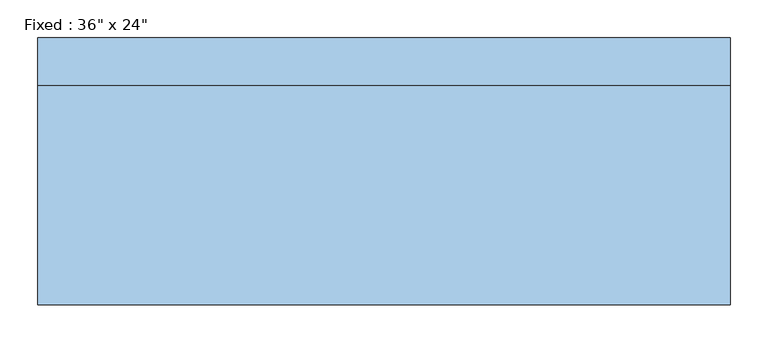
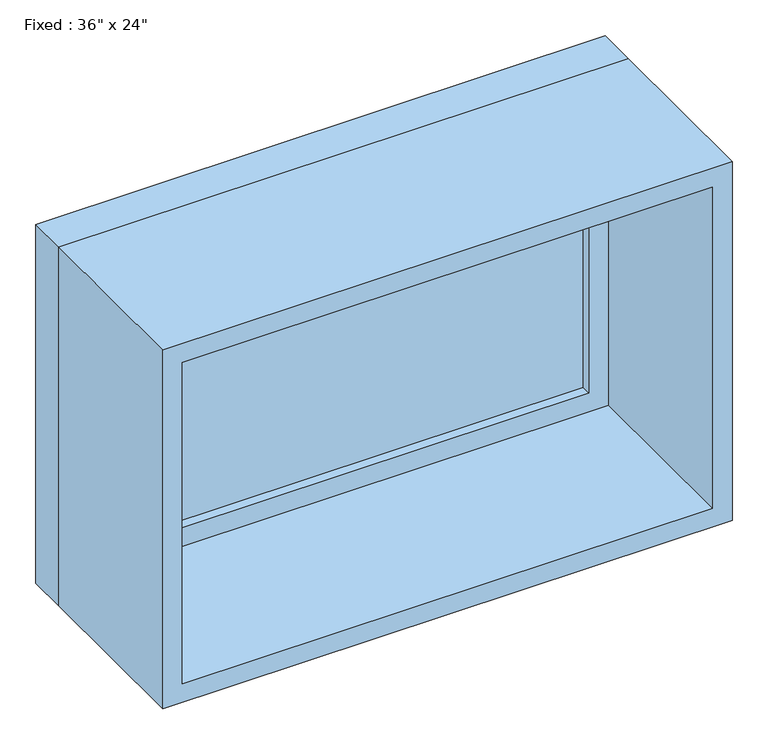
"""IFC4 building model written with IfcOpenShell, lengths in millimetres: window geometry."""

import ifcopenshell
import ifcopenshell.guid

model = None  # the IFC model being written
_history = None  # IfcOwnerHistory: only IFC2X3 demands one
_inside = {}  # id of a spatial element -> (the spatial element, [elements in it])
_under = {}  # id of a project, library or spatial element -> (it, [spatial elements below it])
_declared = {}  # id of a project -> (the project, [libraries it declares])
_typed = {}  # id of a type object -> (the type object, [elements of that type])
_made_of = {}  # id of a material, layer set ... -> (it, [elements and type objects made of it])


def new_model(schema):
    """Start an empty IFC model of exactly this schema.

    Asked for "IFC4X3", IfcOpenShell would pick the latest addendum, in which some entities
    have other attributes; the version numbers below select the first issue.
    IFC2X3 requires an IfcOwnerHistory on every rooted entity: one is made here for all.
    """
    global model, _history
    if schema == "IFC4X3":
        model = ifcopenshell.file(schema_version=(4, 3, 0, 0))
    else:
        model = ifcopenshell.file(schema=schema)
    _inside.clear()
    _under.clear()
    _declared.clear()
    _typed.clear()
    _made_of.clear()
    _history = None
    if model.schema == "IFC2X3":
        org = make("IfcOrganization", Name="unknown")
        user = make(
            "IfcPersonAndOrganization",
            ThePerson=make("IfcPerson", FamilyName="unknown"),
            TheOrganization=org,
        )
        app = make(
            "IfcApplication",
            ApplicationDeveloper=org,
            Version="unknown",
            ApplicationFullName="unknown",
            ApplicationIdentifier="unknown",
        )
        _history = make(
            "IfcOwnerHistory",
            OwningUser=user,
            OwningApplication=app,
            ChangeAction="ADDED",
            CreationDate=0,
        )
    return model


def make(cls, **values):
    """One entity of the class cls with the attributes given. An attribute that is None is left unset."""
    return model.create_entity(
        cls, **{name: value for name, value in values.items() if value is not None}
    )


def rooted(cls, **values):
    """An entity with a GlobalId (a new one), such as an element, a storey or a relation."""
    return make(cls, GlobalId=ifcopenshell.guid.new(), OwnerHistory=_history, **values)


def si_unit(unit_type, name, prefix=None):
    """IfcSIUnit, for example si_unit("LENGTHUNIT", "METRE", prefix="MILLI")."""
    return make("IfcSIUnit", UnitType=unit_type, Prefix=prefix, Name=name)


def assignment(units):
    """IfcUnitAssignment: the units of a project."""
    return None if units is None else make("IfcUnitAssignment", Units=units)


def point(xyz):
    """IfcCartesianPoint."""
    return None if xyz is None else make("IfcCartesianPoint", Coordinates=xyz)


def direction(xyz):
    """IfcDirection."""
    return None if xyz is None else make("IfcDirection", DirectionRatios=xyz)


def frame(location, z_axis=None, x_axis=None):
    """IfcAxis2Placement3D, a coordinate frame: its origin and axes. An axis left out is left unset."""
    return make(
        "IfcAxis2Placement3D",
        Location=point(location),
        Axis=direction(z_axis),
        RefDirection=direction(x_axis),
    )


def origin():
    """The frame at (0, 0, 0) with its axes left unset."""
    return frame((0.0, 0.0, 0.0))


def place(relative_to, where):
    """IfcLocalPlacement: puts the frame where relative to a parent placement (None: the world)."""
    return make(
        "IfcLocalPlacement", PlacementRelTo=relative_to, RelativePlacement=where
    )


def context(
    kind, dimensions, precision=None, world=None, true_north=None, identifier=None
):
    """IfcGeometricRepresentationContext, for example the 3D "Model" context."""
    return make(
        "IfcGeometricRepresentationContext",
        ContextIdentifier=identifier,
        ContextType=kind,
        CoordinateSpaceDimension=dimensions,
        Precision=precision,
        WorldCoordinateSystem=world,
        TrueNorth=true_north,
    )


def project(units=None, contexts=None):
    """IfcProject with its units and contexts."""
    return rooted(
        "IfcProject",
        Name="project",
        RepresentationContexts=contexts,
        UnitsInContext=assignment(units),
    )


def spatial(cls, under=None, at=None, **own):
    """A site, building, storey or space (cls), placed at a placement, below another one or the project."""
    s = rooted(cls, ObjectPlacement=at, **own)
    if under is not None:
        _under.setdefault(under.id(), (under, []))[1].append(s)
    return s


def polyline(points):
    """IfcPolyline through the points."""
    return make("IfcPolyline", Points=[point(p) for p in points])


def outline(outer, holes=None, kind="AREA"):
    """IfcArbitraryClosedProfileDef: a profile drawn as a closed curve; with holes, ...WithVoids."""
    if holes is None:
        return make("IfcArbitraryClosedProfileDef", ProfileType=kind, OuterCurve=outer)
    return make(
        "IfcArbitraryProfileDefWithVoids",
        ProfileType=kind,
        OuterCurve=outer,
        InnerCurves=holes,
    )


def extrude(swept, where, along, depth):
    """IfcExtrudedAreaSolid: the profile swept, set in the frame where, extruded along a direction by depth."""
    return make(
        "IfcExtrudedAreaSolid",
        SweptArea=swept,
        Position=where,
        ExtrudedDirection=direction(along),
        Depth=depth,
    )


def shape(context_of_items, identifier, shape_type, items):
    """IfcShapeRepresentation: the items that make up one representation, for example the "Body"."""
    return make(
        "IfcShapeRepresentation",
        ContextOfItems=context_of_items,
        RepresentationIdentifier=identifier,
        RepresentationType=shape_type,
        Items=items,
    )


def source(mapping_origin, context_of_items, identifier, shape_type, items):
    """IfcRepresentationMap: a shape defined once, which mapped items show again and again."""
    return make(
        "IfcRepresentationMap",
        MappingOrigin=mapping_origin,
        MappedRepresentation=shape(context_of_items, identifier, shape_type, items),
    )


def transform(
    local_origin,
    x_axis=None,
    y_axis=None,
    z_axis=None,
    scale=None,
    scale2=None,
    scale3=None,
    uniform=True,
):
    """IfcCartesianTransformationOperator3D, or its non-uniform kind. x_axis, y_axis, z_axis: its Axis1, 2, 3."""
    if uniform:
        return make(
            "IfcCartesianTransformationOperator3D",
            Axis1=direction(x_axis),
            Axis2=direction(y_axis),
            LocalOrigin=point(local_origin),
            Scale=scale,
            Axis3=direction(z_axis),
        )
    return make(
        "IfcCartesianTransformationOperator3DnonUniform",
        Axis1=direction(x_axis),
        Axis2=direction(y_axis),
        LocalOrigin=point(local_origin),
        Scale=scale,
        Axis3=direction(z_axis),
        Scale2=scale2,
        Scale3=scale3,
    )


def mapped(mapping_source, mapping_target):
    """IfcMappedItem: shows the shape of a source again, moved by a transform."""
    return make(
        "IfcMappedItem", MappingSource=mapping_source, MappingTarget=mapping_target
    )


def made_of(thing, what):
    """Note that an element or type object is made of a material, layer set ...; save() writes the relation."""
    if what is not None:
        _made_of.setdefault(what.id(), (what, []))[1].append(thing)
    return thing


def element(
    cls,
    number,
    at=None,
    inside=None,
    cuts=None,
    type_object=None,
    material=None,
    context=None,
    identifier="Body",
    shape_type=None,
    held_by="IfcProductDefinitionShape",
    body=None,
    shapes=None,
    **own,
):
    """One element of the class cls, such as IfcWall. Its Tag is "e" and its number.

    at: its placement. inside: the storey or other place that contains it. cuts: it is an
    opening in that element (IfcRelVoidsElement). A single representation is given by context,
    identifier, shape_type and body (its items); several are given by shapes. held_by: the class
    of the entity that holds the representations. save() writes the other relations.
    """
    e = rooted(cls, Tag="e%d" % number, ObjectPlacement=at, **own)
    if body is not None:
        shapes = [shape(context, identifier, shape_type, body)]
    if shapes is not None:
        e.Representation = make(held_by, Representations=shapes)
    if inside is not None:
        _inside.setdefault(inside.id(), (inside, []))[1].append(e)
    if cuts is not None:
        rooted(
            "IfcRelVoidsElement", RelatingBuildingElement=cuts, RelatedOpeningElement=e
        )
    if type_object is not None:
        _typed.setdefault(type_object.id(), (type_object, []))[1].append(e)
    return made_of(e, material)


def aggregate(whole, parts):
    """IfcRelAggregates: a whole, such as a stair, and the parts it consists of."""
    return rooted("IfcRelAggregates", RelatingObject=whole, RelatedObjects=parts)


def save(model, path):
    """Write the relations noted so far, then the file.

    IfcRelAggregates (storeys below a building ...), IfcRelContainedInSpatialStructure (elements
    in a storey), IfcRelDefinesByType, IfcRelAssociatesMaterial and IfcRelDeclares: one each for
    every whole, place, type object, material and project.
    """
    for whole, parts in _under.values():
        aggregate(whole, parts)
    for where, things in _inside.values():
        rooted(
            "IfcRelContainedInSpatialStructure",
            RelatedElements=things,
            RelatingStructure=where,
        )
    for kind, things in _typed.values():
        rooted("IfcRelDefinesByType", RelatedObjects=things, RelatingType=kind)
    for what, things in _made_of.values():
        rooted("IfcRelAssociatesMaterial", RelatedObjects=things, RelatingMaterial=what)
    for by, libraries in _declared.values():
        rooted("IfcRelDeclares", RelatingContext=by, RelatedDefinitions=libraries)
    model.write(path)


def window_50e48787(model_context):
    return source(origin(), model_context, "Body", "SweptSolid", [
        extrude(outline(polyline([(355.6, 128.5875), (-431.8, 128.5875), (-431.8, 141.2875), (355.6, 141.2875), (355.6, 128.5875)])), frame((0.0, 0.0, 977.9), z_axis=(0.0, 0.0, 1.0), x_axis=(1.0, 0.0, 0.0)), (0.0, 0.0, 1.0), 482.6),
        extrude(outline(polyline([(1504.95, -476.25), (933.45, -476.25), (933.45, 400.05), (1504.95, 400.05), (1504.95, -476.25)]), holes=[polyline([(1460.5, -431.8), (1460.5, 355.6), (977.9, 355.6), (977.9, -431.8), (1460.5, -431.8)])]), frame((0.0, 112.7125, 0.0), z_axis=(0.0, 1.0, 0.0), x_axis=(0.0, 0.0, 1.0)), (0.0, 0.0, 1.0), 44.45),
        extrude(outline(polyline([(1524.0, -495.3), (914.4, -495.3), (914.4, 419.1), (1524.0, 419.1), (1524.0, -495.3)]), holes=[polyline([(1492.25, -463.55), (1492.25, 387.35), (946.15, 387.35), (946.15, -463.55), (1492.25, -463.55)])]), frame((0.0, -176.2125, 0.0), z_axis=(0.0, 1.0, 0.0), x_axis=(0.0, 0.0, 1.0)), (0.0, 0.0, 1.0), 288.925),
        extrude(outline(polyline([(1524.0, 419.1), (1524.0, -495.3), (914.4, -495.3), (914.4, 419.1), (1524.0, 419.1)]), holes=[polyline([(1504.95, 400.05), (933.45, 400.05), (933.45, -476.25), (1504.95, -476.25), (1504.95, 400.05)])]), frame((0.0, 112.7125, 0.0), z_axis=(0.0, 1.0, 0.0), x_axis=(0.0, 0.0, 1.0)), (0.0, 0.0, 1.0), 63.5),
    ])


if __name__ == "__main__":
    model = new_model("IFC4")
    model_context = context("Model", 3, world=origin())
    ifc_project = project(units=[si_unit("LENGTHUNIT", "METRE", prefix="MILLI")], contexts=[model_context])
    site = spatial("IfcSite", under=ifc_project)
    building = spatial("IfcBuilding", under=site)
    placement = place(None, origin())
    window_shape = window_50e48787(model_context)
    element("IfcWindow", 1, ObjectType="Fixed : 36\" x 24\"", at=placement, inside=building, context=model_context, shape_type="MappedRepresentation", body=[
        mapped(window_shape, transform((0.0, 0.0, 0.0), x_axis=(1.0, 0.0, 0.0), y_axis=(0.0, 1.0, 0.0), z_axis=(0.0, 0.0, 1.0))),
    ])
    save(model, "model.ifc")
